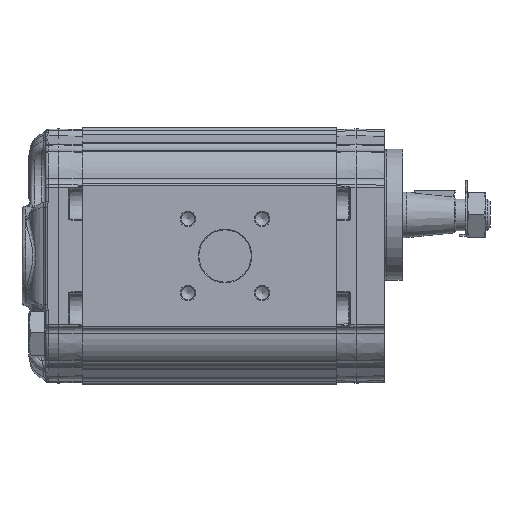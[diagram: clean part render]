
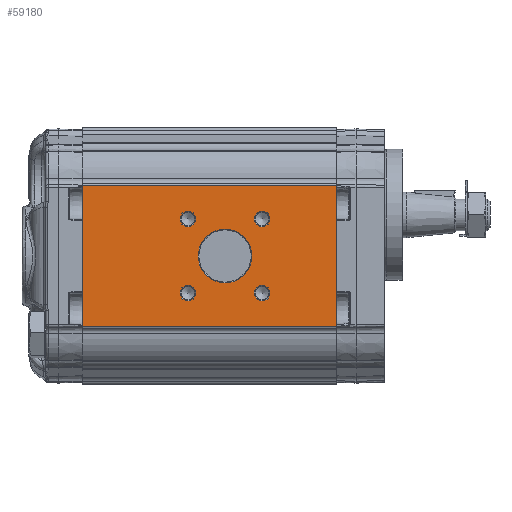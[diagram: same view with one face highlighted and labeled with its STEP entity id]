
A CAD part, left-side view. The second image highlights one B-rep face of the part: STEP entity #59180.
In plain terms, the highlighted planar face has unit normal (-1, 0, 0).
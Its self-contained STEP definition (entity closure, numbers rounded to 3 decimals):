
#3898=PLANE('',#62839);
#5246=CIRCLE('',#62840,10.2);
#5247=CIRCLE('',#62841,3.);
#5248=CIRCLE('',#62842,3.);
#5249=CIRCLE('',#62843,3.);
#5250=CIRCLE('',#62844,3.);
#11503=ORIENTED_EDGE('',*,*,#21214,.T.);
#11504=ORIENTED_EDGE('',*,*,#21215,.T.);
#11505=ORIENTED_EDGE('',*,*,#21216,.T.);
#11506=ORIENTED_EDGE('',*,*,#21217,.T.);
#11507=ORIENTED_EDGE('',*,*,#21218,.T.);
#11508=ORIENTED_EDGE('',*,*,#21219,.F.);
#11509=ORIENTED_EDGE('',*,*,#21220,.F.);
#11510=ORIENTED_EDGE('',*,*,#21221,.T.);
#11511=ORIENTED_EDGE('',*,*,#21222,.T.);
#21214=EDGE_CURVE('',#26396,#26396,#5246,.F.);
#21215=EDGE_CURVE('',#26397,#26397,#5247,.F.);
#21216=EDGE_CURVE('',#26398,#26398,#5248,.F.);
#21217=EDGE_CURVE('',#26399,#26399,#5249,.F.);
#21218=EDGE_CURVE('',#26400,#26400,#5250,.F.);
#21219=EDGE_CURVE('',#26401,#26402,#29497,.T.);
#21220=EDGE_CURVE('',#26403,#26401,#29498,.T.);
#21221=EDGE_CURVE('',#26403,#26404,#29499,.T.);
#21222=EDGE_CURVE('',#26404,#26402,#29500,.T.);
#26396=VERTEX_POINT('',#90760);
#26397=VERTEX_POINT('',#90762);
#26398=VERTEX_POINT('',#90764);
#26399=VERTEX_POINT('',#90766);
#26400=VERTEX_POINT('',#90768);
#26401=VERTEX_POINT('',#90770);
#26402=VERTEX_POINT('',#90771);
#26403=VERTEX_POINT('',#90773);
#26404=VERTEX_POINT('',#90775);
#29497=LINE('',#90769,#31643);
#29498=LINE('',#90772,#31644);
#29499=LINE('',#90774,#31645);
#29500=LINE('',#90776,#31646);
#31643=VECTOR('',#69994,1000.);
#31644=VECTOR('',#69995,1000.);
#31645=VECTOR('',#69996,1000.);
#31646=VECTOR('',#69997,1000.);
#34151=EDGE_LOOP('',(#11503));
#34152=EDGE_LOOP('',(#11504));
#34153=EDGE_LOOP('',(#11505));
#34154=EDGE_LOOP('',(#11506));
#34155=EDGE_LOOP('',(#11507));
#34156=EDGE_LOOP('',(#11508,#11509,#11510,#11511));
#37074=FACE_BOUND('',#34151,.T.);
#37075=FACE_BOUND('',#34152,.T.);
#37076=FACE_BOUND('',#34153,.T.);
#37077=FACE_BOUND('',#34154,.T.);
#37078=FACE_BOUND('',#34155,.T.);
#37079=FACE_BOUND('',#34156,.T.);
#59180=ADVANCED_FACE('',(#37074,#37075,#37076,#37077,#37078,#37079),#3898,
 .T.);
#62839=AXIS2_PLACEMENT_3D('',#90758,#69982,#69983);
#62840=AXIS2_PLACEMENT_3D('',#90759,#69984,#69985);
#62841=AXIS2_PLACEMENT_3D('',#90761,#69986,#69987);
#62842=AXIS2_PLACEMENT_3D('',#90763,#69988,#69989);
#62843=AXIS2_PLACEMENT_3D('',#90765,#69990,#69991);
#62844=AXIS2_PLACEMENT_3D('',#90767,#69992,#69993);
#69982=DIRECTION('',(-1.,0.,0.));
#69983=DIRECTION('',(0.,0.,1.));
#69984=DIRECTION('',(-1.,0.,0.));
#69985=DIRECTION('',(0.,0.,1.));
#69986=DIRECTION('',(-1.,0.,0.));
#69987=DIRECTION('',(0.,0.,1.));
#69988=DIRECTION('',(-1.,0.,0.));
#69989=DIRECTION('',(0.,0.,1.));
#69990=DIRECTION('',(-1.,0.,0.));
#69991=DIRECTION('',(0.,0.,1.));
#69992=DIRECTION('',(-1.,0.,0.));
#69993=DIRECTION('',(0.,0.,1.));
#69994=DIRECTION('',(0.,0.,-1.));
#69995=DIRECTION('',(0.,-1.,0.));
#69996=DIRECTION('',(0.,0.,-1.));
#69997=DIRECTION('',(0.,-1.,0.));
#90758=CARTESIAN_POINT('',(-43.,97.,27.048));
#90759=CARTESIAN_POINT('',(-43.,42.5,0.));
#90760=CARTESIAN_POINT('',(-43.,42.5,10.2));
#90761=CARTESIAN_POINT('',(-43.,56.642,-14.142));
#90762=CARTESIAN_POINT('',(-43.,56.642,-11.142));
#90763=CARTESIAN_POINT('',(-43.,56.642,14.142));
#90764=CARTESIAN_POINT('',(-43.,56.642,17.142));
#90765=CARTESIAN_POINT('',(-43.,28.358,14.142));
#90766=CARTESIAN_POINT('',(-43.,28.358,17.142));
#90767=CARTESIAN_POINT('',(-43.,28.358,-14.142));
#90768=CARTESIAN_POINT('',(-43.,28.358,-11.142));
#90769=CARTESIAN_POINT('',(-43.,0.,27.048));
#90770=CARTESIAN_POINT('',(-43.,0.,27.048));
#90771=CARTESIAN_POINT('',(-43.,0.,-27.048));
#90772=CARTESIAN_POINT('',(-43.,97.,27.048));
#90773=CARTESIAN_POINT('',(-43.,97.,27.048));
#90774=CARTESIAN_POINT('',(-43.,97.,27.048));
#90775=CARTESIAN_POINT('',(-43.,97.,-27.048));
#90776=CARTESIAN_POINT('',(-43.,97.,-27.048));
